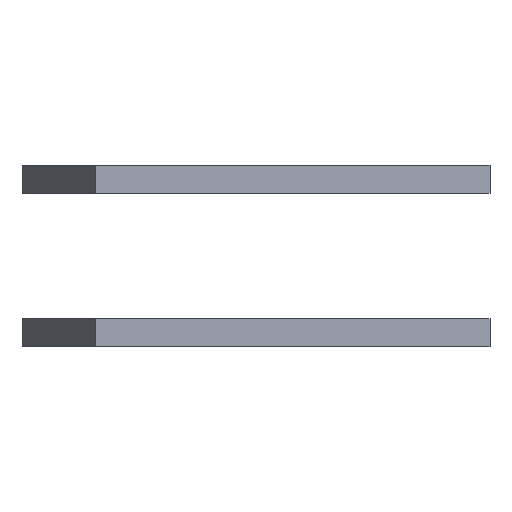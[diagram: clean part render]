
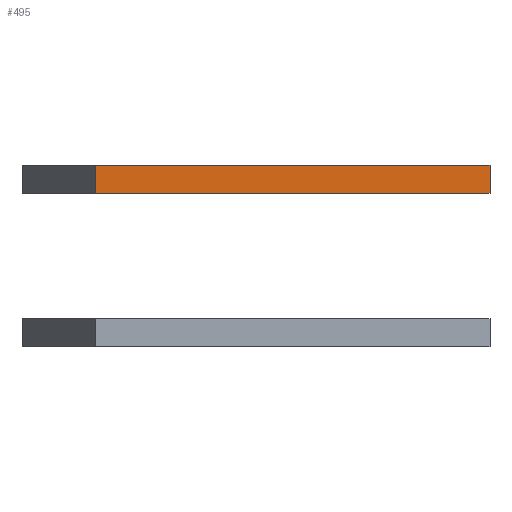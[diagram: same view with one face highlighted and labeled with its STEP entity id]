
A CAD part, front view. The second image highlights one B-rep face of the part: STEP entity #495.
In plain terms, the highlighted planar face has unit normal (0, -1, 0).
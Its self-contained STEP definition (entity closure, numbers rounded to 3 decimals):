
#495=ADVANCED_FACE('Pad.1',(#1181),#1182,.F.);
#1181=FACE_OUTER_BOUND('',#2120,.T.);
#1182=PLANE('',#2121);
#2120=EDGE_LOOP('',(#3451,#3452,#3453,#3454));
#2121=AXIS2_PLACEMENT_3D('',#3455,#3456,#3457);
#3451=ORIENTED_EDGE('',*,*,#5556,.F.);
#3452=ORIENTED_EDGE('',*,*,#5650,.T.);
#3453=ORIENTED_EDGE('',*,*,#5564,.T.);
#3454=ORIENTED_EDGE('',*,*,#5610,.F.);
#3455=CARTESIAN_POINT('',(104.0,-30.0,0.0));
#3456=DIRECTION('',(0.0,1.0,-0.0));
#3457=DIRECTION('',(-1.0,0.0,0.0));
#5556=EDGE_CURVE('',#6698,#6700,#6701,.T.);
#5564=EDGE_CURVE('',#6712,#6710,#6713,.T.);
#5610=EDGE_CURVE('',#6700,#6710,#6774,.F.);
#5650=EDGE_CURVE('',#6698,#6712,#6830,.F.);
#6698=VERTEX_POINT('',#8283);
#6700=VERTEX_POINT('',#8286);
#6701=LINE('',#8287,#8288);
#6710=VERTEX_POINT('',#8300);
#6712=VERTEX_POINT('',#8303);
#6713=LINE('',#8304,#8305);
#6774=LINE('',#8393,#8394);
#6830=LINE('',#8458,#8459);
#8283=CARTESIAN_POINT('',(-104.0,-30.,33.0));
#8286=CARTESIAN_POINT('',(-104.0,-30.,48.0));
#8287=CARTESIAN_POINT('',(-104.0,-30.,40.5));
#8288=VECTOR('',#10160,1.0);
#8300=CARTESIAN_POINT('',(104.0,-30.0,48.0));
#8303=CARTESIAN_POINT('',(104.0,-30.0,33.0));
#8304=CARTESIAN_POINT('',(104.0,-30.0,40.5));
#8305=VECTOR('',#10168,1.0);
#8393=CARTESIAN_POINT('',(0.0,-30.0,48.0));
#8394=VECTOR('',#10215,1.0);
#8458=CARTESIAN_POINT('',(0.0,-30.0,33.0));
#8459=VECTOR('',#10299,1.0);
#10160=DIRECTION('',(0.0,0.0,1.0));
#10168=DIRECTION('',(0.0,0.0,1.0));
#10215=DIRECTION('',(-1.0,0.0,0.0));
#10299=DIRECTION('',(-1.0,0.0,0.0));
